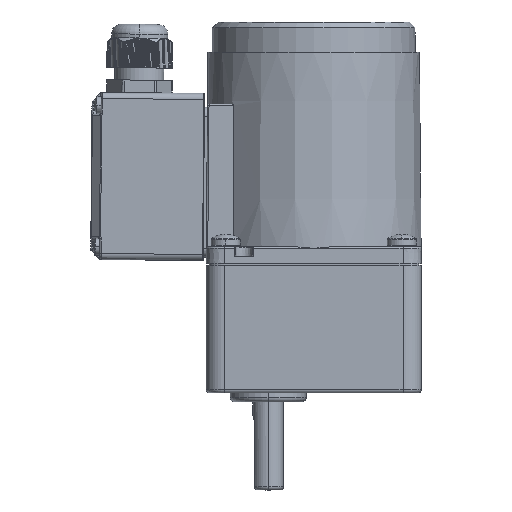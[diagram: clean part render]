
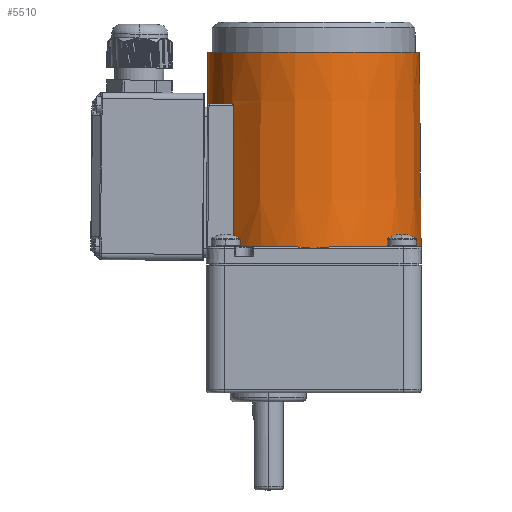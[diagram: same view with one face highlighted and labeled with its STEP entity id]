
A CAD part, left-side view. The second image highlights one B-rep face of the part: STEP entity #5510.
In plain terms, the highlighted conical face has half-angle 0.5 degrees and reference radius 35.066 mm.
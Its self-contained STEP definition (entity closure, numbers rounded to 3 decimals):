
#193=CARTESIAN_POINT('',(0.,0.,6.5));
#194=DIRECTION('',(0.,0.,1.));
#195=DIRECTION('',(-0.663,0.748,0.));
#196=AXIS2_PLACEMENT_3D('',#193,#194,#195);
#355=CARTESIAN_POINT('',(-34.848,5.898,6.5));
#356=CARTESIAN_POINT('',(-34.952,5.283,6.5));
#357=CARTESIAN_POINT('',(-35.13,4.026,6.437));
#358=CARTESIAN_POINT('',(-35.296,2.189,6.263));
#359=CARTESIAN_POINT('',(-35.347,0.751,6.094));
#360=CARTESIAN_POINT('',(-35.348,0.,6.004));
#366=DIRECTION('',(0.,-0.009,-1.));
#367=VECTOR('',#366,64.498);
#368=CARTESIAN_POINT('',(0.,-34.785,70.5));
#369=LINE('',#368,#367);
#370=CARTESIAN_POINT('',(-23.443,26.449,6.5));
#371=CARTESIAN_POINT('',(-23.398,26.429,11.666));
#372=CARTESIAN_POINT('',(-23.308,26.388,21.999));
#373=CARTESIAN_POINT('',(-23.173,26.327,37.501));
#374=CARTESIAN_POINT('',(-23.083,26.286,47.836));
#375=CARTESIAN_POINT('',(-23.037,26.266,53.004));
#377=CARTESIAN_POINT('',(-23.037,26.266,53.004));
#378=CARTESIAN_POINT('',(-23.037,26.266,53.032));
#379=CARTESIAN_POINT('',(-23.032,26.27,53.087));
#380=CARTESIAN_POINT('',(-23.011,26.288,53.169));
#381=CARTESIAN_POINT('',(-22.974,26.319,53.25));
#382=CARTESIAN_POINT('',(-22.92,26.365,53.326));
#383=CARTESIAN_POINT('',(-22.848,26.426,53.396));
#384=CARTESIAN_POINT('',(-22.757,26.504,53.453));
#385=CARTESIAN_POINT('',(-22.652,26.594,53.491));
#386=CARTESIAN_POINT('',(-22.576,26.658,53.5));
#387=CARTESIAN_POINT('',(-22.537,26.691,53.5));
#389=DIRECTION('',(0.,-0.009,1.));
#390=VECTOR('',#389,17.496);
#391=CARTESIAN_POINT('',(0.,34.937,53.004));
#392=LINE('',#391,#390);
#3039=CARTESIAN_POINT('',(0.,0.,6.5));
#3040=DIRECTION('',(0.,0.,1.));
#3041=DIRECTION('',(-0.986,-0.167,0.));
#3042=AXIS2_PLACEMENT_3D('',#3039,#3040,#3041);
#3072=CARTESIAN_POINT('',(-5.898,-34.848,6.5));
#3073=CARTESIAN_POINT('',(-5.283,-34.952,6.5));
#3074=CARTESIAN_POINT('',(-4.026,-35.13,
6.437));
#3075=CARTESIAN_POINT('',(-2.189,-35.296,
6.263));
#3076=CARTESIAN_POINT('',(-0.751,-35.347,
6.094));
#3077=CARTESIAN_POINT('',(0.,-35.348,
6.004));
#3102=CARTESIAN_POINT('',(-35.348,0.,
6.004));
#3103=CARTESIAN_POINT('',(-35.347,-0.748,
6.093));
#3104=CARTESIAN_POINT('',(-35.296,-2.183,
6.262));
#3105=CARTESIAN_POINT('',(-35.129,-4.035,
6.438));
#3106=CARTESIAN_POINT('',(-34.951,-5.287,6.5));
#3107=CARTESIAN_POINT('',(-34.848,-5.898,6.5));
#3430=CARTESIAN_POINT('',(0.,0.,70.5));
#3431=DIRECTION('',(0.,0.,-1.));
#3432=DIRECTION('',(0.,-1.,0.));
#3433=AXIS2_PLACEMENT_3D('',#3430,#3431,#3432);
#3832=CARTESIAN_POINT('',(0.,34.937,53.004));
#3833=CARTESIAN_POINT('',(-0.749,34.937,
53.094));
#3834=CARTESIAN_POINT('',(-2.182,34.885,53.263));
#3835=CARTESIAN_POINT('',(-4.003,34.72,53.437));
#3836=CARTESIAN_POINT('',(-5.253,34.541,53.5));
#3837=CARTESIAN_POINT('',(-5.864,34.437,53.5));
#3839=CARTESIAN_POINT('',(0.,0.,53.5));
#3840=DIRECTION('',(0.,0.,1.));
#3841=DIRECTION('',(-0.168,0.986,0.));
#3842=AXIS2_PLACEMENT_3D('',#3839,#3840,#3841);
#3845=CARTESIAN_POINT('',(-5.898,-34.848,6.5));
#3847=VERTEX_POINT('',#3845);
#3850=CARTESIAN_POINT('',(-34.848,-5.898,6.5));
#3851=VERTEX_POINT('',#3850);
#3888=CARTESIAN_POINT('',(-23.443,26.449,6.5));
#3889=VERTEX_POINT('',#3888);
#3890=CARTESIAN_POINT('',(-34.848,5.898,6.5));
#3891=VERTEX_POINT('',#3890);
#3920=CARTESIAN_POINT('',(0.,-35.348,
6.004));
#3922=VERTEX_POINT('',#3920);
#4546=CARTESIAN_POINT('',(-35.348,0.,
6.004));
#4547=VERTEX_POINT('',#4546);
#4558=CARTESIAN_POINT('',(0.,34.937,53.004));
#4559=VERTEX_POINT('',#4558);
#4620=CARTESIAN_POINT('',(-5.864,34.437,53.5));
#4621=VERTEX_POINT('',#4620);
#4628=CARTESIAN_POINT('',(-22.537,26.691,53.5));
#4629=VERTEX_POINT('',#4628);
#4634=CARTESIAN_POINT('',(0.,-34.785,70.5));
#4635=VERTEX_POINT('',#4634);
#4636=CARTESIAN_POINT('',(0.,34.785,70.5));
#4637=VERTEX_POINT('',#4636);
#4638=VERTEX_POINT('',#375);
#5481=CARTESIAN_POINT('',(0.,0.,38.252));
#5482=DIRECTION('',(0.,0.,-1.));
#5483=DIRECTION('',(0.,-1.,0.));
#5484=AXIS2_PLACEMENT_3D('',#5481,#5482,#5483);
#5485=CONICAL_SURFACE('',#5484,35.066,0.5);
#5487=ORIENTED_EDGE('',*,*,#5486,.T.);
#5489=ORIENTED_EDGE('',*,*,#5488,.F.);
#5491=ORIENTED_EDGE('',*,*,#5490,.F.);
#5493=ORIENTED_EDGE('',*,*,#5492,.F.);
#5494=ORIENTED_EDGE('',*,*,#5475,.F.);
#5495=ORIENTED_EDGE('',*,*,#5008,.F.);
#5497=ORIENTED_EDGE('',*,*,#5496,.T.);
#5499=ORIENTED_EDGE('',*,*,#5498,.T.);
#5501=ORIENTED_EDGE('',*,*,#5500,.F.);
#5503=ORIENTED_EDGE('',*,*,#5502,.F.);
#5505=ORIENTED_EDGE('',*,*,#5504,.T.);
#5507=ORIENTED_EDGE('',*,*,#5506,.F.);
#5508=EDGE_LOOP('',(#5487,#5489,#5491,#5493,#5494,#5495,#5497,#5499,#5501,#5503,
#5505,#5507));
#5509=FACE_OUTER_BOUND('',#5508,.F.);
#5510=ADVANCED_FACE('',(#5509),#5485,.T.);
#197=CIRCLE('',#196,35.343);
#361=B_SPLINE_CURVE_WITH_KNOTS('',3,(#355,#356,#357,#358,#359,#360),
.UNSPECIFIED.,.F.,.F.,(4,1,1,4),(0.,0.333,0.667,1.),
.UNSPECIFIED.);
#376=B_SPLINE_CURVE_WITH_KNOTS('',3,(#370,#371,#372,#373,#374,#375),
.UNSPECIFIED.,.F.,.F.,(4,1,1,4),(0.,0.333,0.667,1.),
.UNSPECIFIED.);
#388=B_SPLINE_CURVE_WITH_KNOTS('',3,(#377,#378,#379,#380,#381,#382,#383,#384,
#385,#386,#387),.UNSPECIFIED.,.F.,.F.,(4,1,1,1,1,1,1,1,4),(0.,0.125,0.25,
0.375,0.5,0.625,0.75,0.875,1.),.UNSPECIFIED.);
#3043=CIRCLE('',#3042,35.343);
#3078=B_SPLINE_CURVE_WITH_KNOTS('',3,(#3072,#3073,#3074,#3075,#3076,#3077),
.UNSPECIFIED.,.F.,.F.,(4,1,1,4),(0.,0.333,0.667,1.),
.UNSPECIFIED.);
#3108=B_SPLINE_CURVE_WITH_KNOTS('',3,(#3102,#3103,#3104,#3105,#3106,#3107),
.UNSPECIFIED.,.F.,.F.,(4,1,1,4),(0.,0.333,0.667,1.),
.UNSPECIFIED.);
#3434=CIRCLE('',#3433,34.785);
#3838=B_SPLINE_CURVE_WITH_KNOTS('',3,(#3832,#3833,#3834,#3835,#3836,#3837),
.UNSPECIFIED.,.F.,.F.,(4,1,1,4),(0.,0.333,0.667,1.),
.UNSPECIFIED.);
#3843=CIRCLE('',#3842,34.933);
#5008=EDGE_CURVE('',#3889,#3891,#197,.T.);
#5475=EDGE_CURVE('',#3891,#4547,#361,.T.);
#5486=EDGE_CURVE('',#4635,#3922,#369,.T.);
#5488=EDGE_CURVE('',#3847,#3922,#3078,.T.);
#5490=EDGE_CURVE('',#3851,#3847,#3043,.T.);
#5492=EDGE_CURVE('',#4547,#3851,#3108,.T.);
#5496=EDGE_CURVE('',#3889,#4638,#376,.T.);
#5498=EDGE_CURVE('',#4638,#4629,#388,.T.);
#5500=EDGE_CURVE('',#4621,#4629,#3843,.T.);
#5502=EDGE_CURVE('',#4559,#4621,#3838,.T.);
#5504=EDGE_CURVE('',#4559,#4637,#392,.T.);
#5506=EDGE_CURVE('',#4635,#4637,#3434,.T.);
